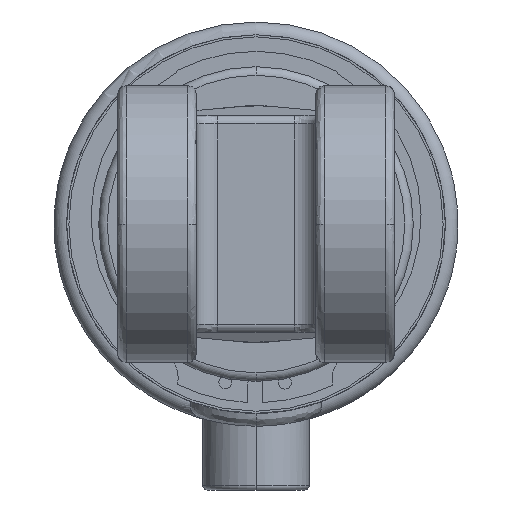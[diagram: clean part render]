
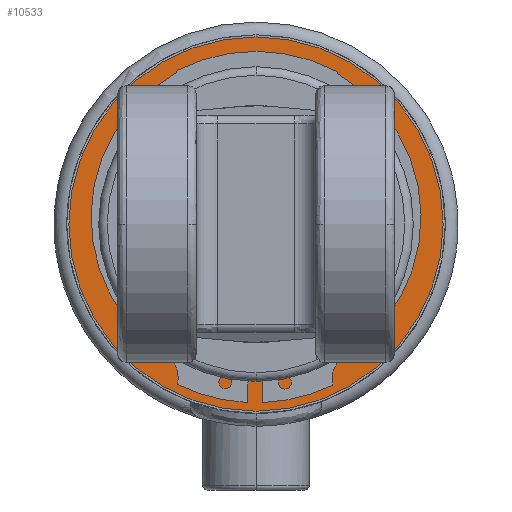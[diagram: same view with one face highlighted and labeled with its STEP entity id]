
A CAD part, left-side view. The second image highlights one B-rep face of the part: STEP entity #10533.
In plain terms, the highlighted planar face has unit normal (-1, 0, 0).
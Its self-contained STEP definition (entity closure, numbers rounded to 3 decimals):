
#119 = FACE_OUTER_BOUND ( 'NONE', #4527, .T. ) ;
#288 = CARTESIAN_POINT ( 'NONE',  ( -418.005, 0., 0. ) ) ;
#297 = DIRECTION ( 'NONE',  ( -1., 0., 0. ) ) ;
#492 = EDGE_CURVE ( 'NONE', #3861, #3581, #3368, .T. ) ;
#1225 = DIRECTION ( 'NONE',  ( 0., 0., 1. ) ) ;
#1622 = CIRCLE ( 'NONE', #7586, 43.95 ) ;
#1980 = VERTEX_POINT ( 'NONE', #11826 ) ;
#2284 = ORIENTED_EDGE ( 'NONE', *, *, #2720, .T. ) ;
#2337 = CIRCLE ( 'NONE', #4292, 43.95 ) ;
#2696 = CARTESIAN_POINT ( 'NONE',  ( -418.005, 0., -36.95 ) ) ;
#2720 = EDGE_CURVE ( 'NONE', #8534, #1980, #1622, .T. ) ;
#3011 = AXIS2_PLACEMENT_3D ( 'NONE', #3621, #9992, #4538 ) ;
#3020 = EDGE_CURVE ( 'NONE', #1980, #8534, #2337, .T. ) ;
#3368 = CIRCLE ( 'NONE', #10388, 36.95 ) ;
#3529 = CARTESIAN_POINT ( 'NONE',  ( -418.005, 0., 0. ) ) ;
#3581 = VERTEX_POINT ( 'NONE', #2696 ) ;
#3621 = CARTESIAN_POINT ( 'NONE',  ( -418.005, 0., -43.95 ) ) ;
#3861 = VERTEX_POINT ( 'NONE', #4847 ) ;
#4019 = CARTESIAN_POINT ( 'NONE',  ( -418.005, 0., -43.95 ) ) ;
#4292 = AXIS2_PLACEMENT_3D ( 'NONE', #5795, #297, #6720 ) ;
#4443 = DIRECTION ( 'NONE',  ( 0., 0., 1. ) ) ;
#4527 = EDGE_LOOP ( 'NONE', ( #10354, #2284 ) ) ;
#4538 = DIRECTION ( 'NONE',  ( 0., 0., 1. ) ) ;
#4847 = CARTESIAN_POINT ( 'NONE',  ( -418.005, 0., 36.95 ) ) ;
#5122 = DIRECTION ( 'NONE',  ( -1., 0., 0. ) ) ;
#5168 = ORIENTED_EDGE ( 'NONE', *, *, #492, .F. ) ;
#5795 = CARTESIAN_POINT ( 'NONE',  ( -418.005, 0., 0. ) ) ;
#5983 = EDGE_LOOP ( 'NONE', ( #5168, #7237 ) ) ;
#6717 = DIRECTION ( 'NONE',  ( -1., 0., 0. ) ) ;
#6720 = DIRECTION ( 'NONE',  ( 0., 0., 1. ) ) ;
#7237 = ORIENTED_EDGE ( 'NONE', *, *, #9288, .F. ) ;
#7586 = AXIS2_PLACEMENT_3D ( 'NONE', #10569, #5122, #11483 ) ;
#7745 = FACE_BOUND ( 'NONE', #5983, .T. ) ;
#8303 = CIRCLE ( 'NONE', #11839, 36.95 ) ;
#8534 = VERTEX_POINT ( 'NONE', #4019 ) ;
#9288 = EDGE_CURVE ( 'NONE', #3581, #3861, #8303, .T. ) ;
#9897 = DIRECTION ( 'NONE',  ( -1., 0., 0. ) ) ;
#9992 = DIRECTION ( 'NONE',  ( -1., 0., 0. ) ) ;
#10354 = ORIENTED_EDGE ( 'NONE', *, *, #3020, .T. ) ;
#10388 = AXIS2_PLACEMENT_3D ( 'NONE', #3529, #9897, #4443 ) ;
#10533 = ADVANCED_FACE ( 'NONE', ( #119, #7745 ), #10870, .T. ) ;
#10569 = CARTESIAN_POINT ( 'NONE',  ( -418.005, 0., 0. ) ) ;
#10870 = PLANE ( 'NONE',  #3011 ) ;
#11483 = DIRECTION ( 'NONE',  ( 0., 0., 1. ) ) ;
#11826 = CARTESIAN_POINT ( 'NONE',  ( -418.005, 0., 43.95 ) ) ;
#11839 = AXIS2_PLACEMENT_3D ( 'NONE', #288, #6717, #1225 ) ;
